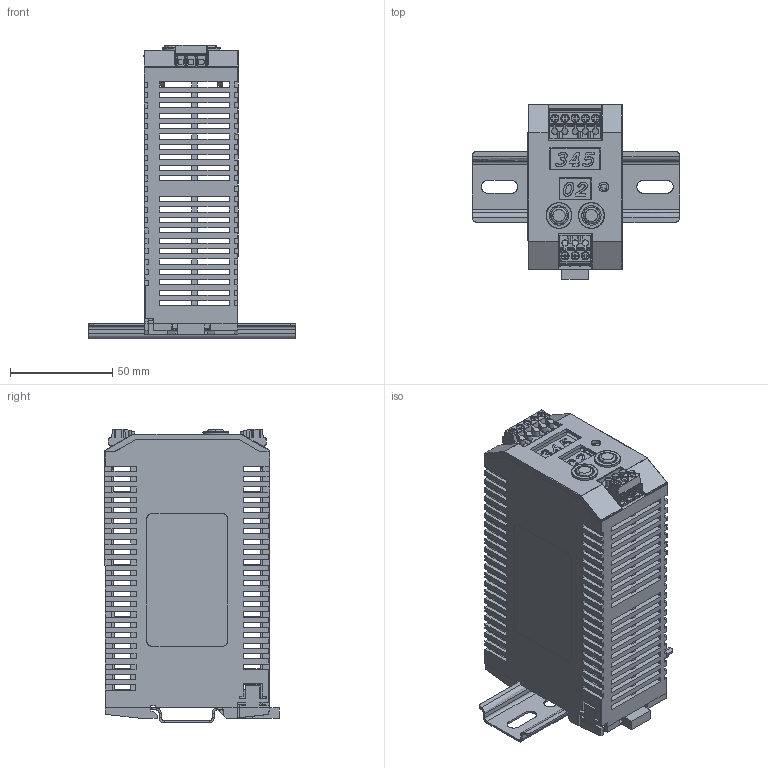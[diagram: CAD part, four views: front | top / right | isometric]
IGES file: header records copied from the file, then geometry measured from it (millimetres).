
Start section: SolidWorks IGES file using analytic representation for surfaces
Global section: file name: C:\Users\freiberg\Desktop\EZ POWER LARGE HOUSING.IGS; native system: SolidWorks 2016; preprocessor: SolidWorks 2016; author: freiberg; date: 160624.152702; units: inch
Bounding box: 101.6 x 85.53 x 144.04 mm (x, y, z)
Surface area: 106361.9 mm2 (no closed solid volume)
Topology: 0 solids, 0 shells, 2452 faces, 21037 edges, 20995 vertices
Faces by surface type: bspline 1893, revolution 559
